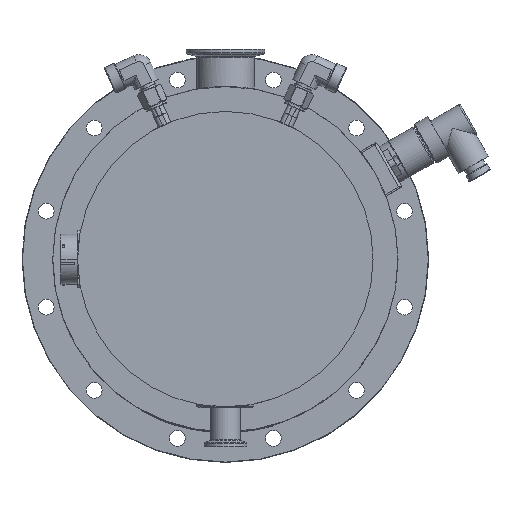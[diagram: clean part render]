
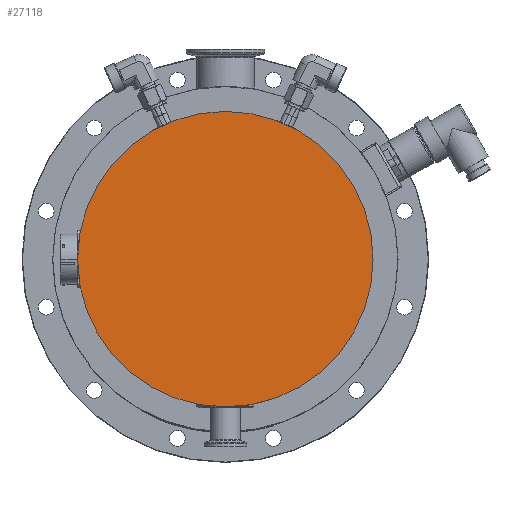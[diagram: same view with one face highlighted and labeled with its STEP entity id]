
A CAD part, front view. The second image highlights one B-rep face of the part: STEP entity #27118.
In plain terms, the highlighted planar face has unit normal (0, -1, 0).
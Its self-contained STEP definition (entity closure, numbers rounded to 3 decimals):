
#9129=CARTESIAN_POINT('',(-0.061,-7.7,0.));
#9130=DIRECTION('',(0.,-1.,0.));
#9131=DIRECTION('',(1.,0.,0.));
#9132=AXIS2_PLACEMENT_3D('',#9129,#9130,#9131);
#9134=CARTESIAN_POINT('',(-0.061,-7.7,0.));
#9135=DIRECTION('',(0.,1.,0.));
#9136=DIRECTION('',(1.,0.,0.));
#9137=AXIS2_PLACEMENT_3D('',#9134,#9135,#9136);
#10787=CARTESIAN_POINT('',(103.5,-7.7,0.));
#10789=VERTEX_POINT('',#10787);
#10822=CARTESIAN_POINT('',(-103.621,-7.7,0.));
#10823=VERTEX_POINT('',#10822);
#27109=CARTESIAN_POINT('',(-0.061,-7.7,0.));
#27110=DIRECTION('',(0.,1.,0.));
#27111=DIRECTION('',(-1.,0.,0.));
#27112=AXIS2_PLACEMENT_3D('',#27109,#27110,#27111);
#27113=PLANE('',#27112);
#27114=ORIENTED_EDGE('',*,*,#14314,.F.);
#27115=ORIENTED_EDGE('',*,*,#13713,.T.);
#27116=EDGE_LOOP('',(#27114,#27115));
#27117=FACE_OUTER_BOUND('',#27116,.F.);
#27118=ADVANCED_FACE('',(#27117),#27113,.F.);
#9133=CIRCLE('',#9132,103.561);
#9138=CIRCLE('',#9137,103.561);
#13713=EDGE_CURVE('',#10789,#10823,#9138,.T.);
#14314=EDGE_CURVE('',#10789,#10823,#9133,.T.);
